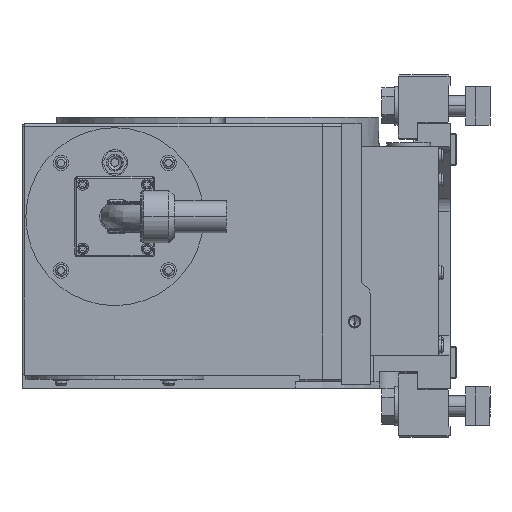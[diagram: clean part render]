
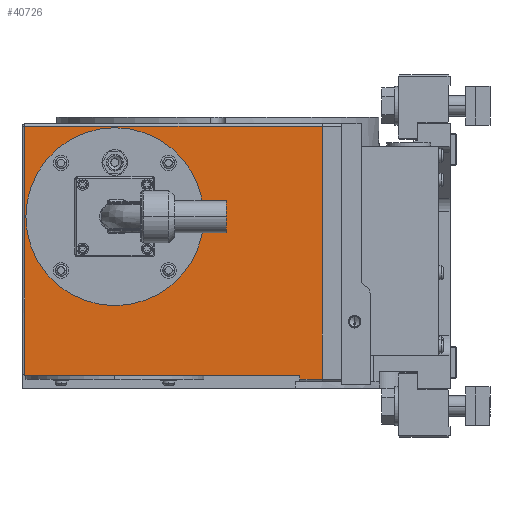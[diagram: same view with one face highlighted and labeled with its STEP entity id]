
A CAD part, left-side view. The second image highlights one B-rep face of the part: STEP entity #40726.
In plain terms, the highlighted planar face has unit normal (-1, 0, 0).
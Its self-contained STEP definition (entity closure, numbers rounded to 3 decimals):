
#2153 = CARTESIAN_POINT ( 'NONE',  ( -163., 0., 0. ) ) ;
#2443 = ORIENTED_EDGE ( 'NONE', *, *, #10102, .T. ) ;
#2621 = EDGE_CURVE ( 'NONE', #19362, #5861, #86702, .T. ) ;
#3224 = LINE ( 'NONE', #25052, #113801 ) ;
#5861 = VERTEX_POINT ( 'NONE', #58369 ) ;
#7458 = EDGE_LOOP ( 'NONE', ( #74191, #68922, #111032, #91097, #2443, #15828 ) ) ;
#7809 = VERTEX_POINT ( 'NONE', #71522 ) ;
#10102 = EDGE_CURVE ( 'NONE', #88442, #16438, #55128, .T. ) ;
#11290 = CIRCLE ( 'NONE', #113216, 54. ) ;
#12820 = PLANE ( 'NONE',  #34605 ) ;
#14161 = FACE_OUTER_BOUND ( 'NONE', #7458, .T. ) ;
#15150 = CARTESIAN_POINT ( 'NONE',  ( -163., 231., -2. ) ) ;
#15828 = ORIENTED_EDGE ( 'NONE', *, *, #43871, .T. ) ;
#15980 = CARTESIAN_POINT ( 'NONE',  ( -163., 161., -126. ) ) ;
#16438 = VERTEX_POINT ( 'NONE', #38769 ) ;
#17258 = ORIENTED_EDGE ( 'NONE', *, *, #105915, .F. ) ;
#19362 = VERTEX_POINT ( 'NONE', #15980 ) ;
#19730 = VERTEX_POINT ( 'NONE', #82633 ) ;
#21193 = VECTOR ( 'NONE', #58764, 1000. ) ;
#21618 = EDGE_CURVE ( 'NONE', #7809, #88442, #23985, .T. ) ;
#23985 = LINE ( 'NONE', #85751, #21193 ) ;
#25052 = CARTESIAN_POINT ( 'NONE',  ( -163., 17.5, -198. ) ) ;
#30786 = CARTESIAN_POINT ( 'NONE',  ( -163., 17.5, 0. ) ) ;
#32077 = CARTESIAN_POINT ( 'NONE',  ( -163., 233., -195. ) ) ;
#34006 = DIRECTION ( 'NONE',  ( 0., -1., 0. ) ) ;
#34065 = VECTOR ( 'NONE', #50078, 1000. ) ;
#34605 = AXIS2_PLACEMENT_3D ( 'NONE', #30786, #93465, #39805 ) ;
#34944 = EDGE_CURVE ( 'NONE', #108766, #7809, #42738, .T. ) ;
#38769 = CARTESIAN_POINT ( 'NONE',  ( -163., 231., -195. ) ) ;
#39313 = CARTESIAN_POINT ( 'NONE',  ( -163., 161., -72. ) ) ;
#39805 = DIRECTION ( 'NONE',  ( 0., 0., -1. ) ) ;
#40376 = EDGE_CURVE ( 'NONE', #100672, #108766, #3224, .T. ) ;
#40685 = CARTESIAN_POINT ( 'NONE',  ( -163., 17.5, -198. ) ) ;
#40726 = ADVANCED_FACE ( 'NONE', ( #82774, #14161 ), #12820, .F. ) ;
#41421 = EDGE_CURVE ( 'NONE', #100672, #19730, #85501, .T. ) ;
#42738 = LINE ( 'NONE', #2153, #111379 ) ;
#43871 = EDGE_CURVE ( 'NONE', #16438, #19730, #81652, .T. ) ;
#44378 = DIRECTION ( 'NONE',  ( -1., 0., 0. ) ) ;
#48300 = DIRECTION ( 'NONE',  ( 0., 0., 1. ) ) ;
#50078 = DIRECTION ( 'NONE',  ( 0., -1., 0. ) ) ;
#55128 = LINE ( 'NONE', #59397, #102806 ) ;
#55741 = DIRECTION ( 'NONE',  ( 0., 0., 1. ) ) ;
#57063 = ORIENTED_EDGE ( 'NONE', *, *, #2621, .F. ) ;
#58369 = CARTESIAN_POINT ( 'NONE',  ( -163., 161., -18. ) ) ;
#58764 = DIRECTION ( 'NONE',  ( 0., 1., 0. ) ) ;
#59397 = CARTESIAN_POINT ( 'NONE',  ( -163., 231., -195. ) ) ;
#63331 = EDGE_LOOP ( 'NONE', ( #17258, #57063 ) ) ;
#68922 = ORIENTED_EDGE ( 'NONE', *, *, #40376, .T. ) ;
#71522 = CARTESIAN_POINT ( 'NONE',  ( -163., 0., -2. ) ) ;
#74191 = ORIENTED_EDGE ( 'NONE', *, *, #41421, .F. ) ;
#81652 = LINE ( 'NONE', #32077, #34065 ) ;
#82633 = CARTESIAN_POINT ( 'NONE',  ( -163., 17.5, -195. ) ) ;
#82774 = FACE_BOUND ( 'NONE', #63331, .T. ) ;
#85501 = LINE ( 'NONE', #92164, #109332 ) ;
#85751 = CARTESIAN_POINT ( 'NONE',  ( -163., 17.5, -2. ) ) ;
#86702 = CIRCLE ( 'NONE', #97847, 54. ) ;
#88442 = VERTEX_POINT ( 'NONE', #15150 ) ;
#91097 = ORIENTED_EDGE ( 'NONE', *, *, #21618, .T. ) ;
#92164 = CARTESIAN_POINT ( 'NONE',  ( -163., 17.5, 0. ) ) ;
#92550 = DIRECTION ( 'NONE',  ( 0., 0., 1. ) ) ;
#93465 = DIRECTION ( 'NONE',  ( 1., 0., 0. ) ) ;
#94659 = DIRECTION ( 'NONE',  ( 0., 0., -1. ) ) ;
#97847 = AXIS2_PLACEMENT_3D ( 'NONE', #98078, #44378, #107054 ) ;
#98078 = CARTESIAN_POINT ( 'NONE',  ( -163., 161., -72. ) ) ;
#100672 = VERTEX_POINT ( 'NONE', #40685 ) ;
#101991 = DIRECTION ( 'NONE',  ( -1., 0., 0. ) ) ;
#102806 = VECTOR ( 'NONE', #94659, 1000. ) ;
#102841 = CARTESIAN_POINT ( 'NONE',  ( -163., 0., -198. ) ) ;
#105915 = EDGE_CURVE ( 'NONE', #5861, #19362, #11290, .T. ) ;
#107054 = DIRECTION ( 'NONE',  ( 0., 0., 1. ) ) ;
#108766 = VERTEX_POINT ( 'NONE', #102841 ) ;
#109332 = VECTOR ( 'NONE', #92550, 1000. ) ;
#111032 = ORIENTED_EDGE ( 'NONE', *, *, #34944, .T. ) ;
#111379 = VECTOR ( 'NONE', #55741, 1000. ) ;
#113216 = AXIS2_PLACEMENT_3D ( 'NONE', #39313, #101991, #48300 ) ;
#113801 = VECTOR ( 'NONE', #34006, 1000. ) ;
